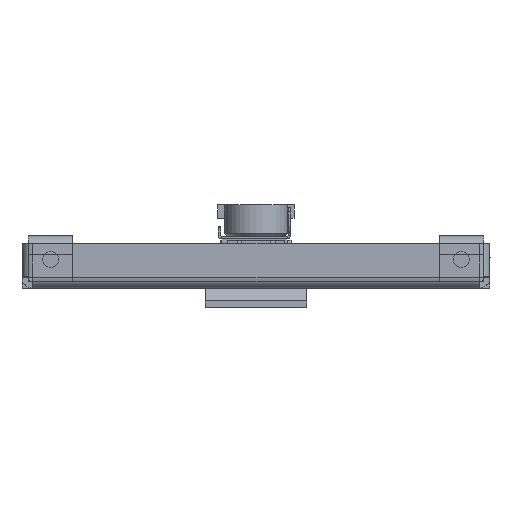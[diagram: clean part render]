
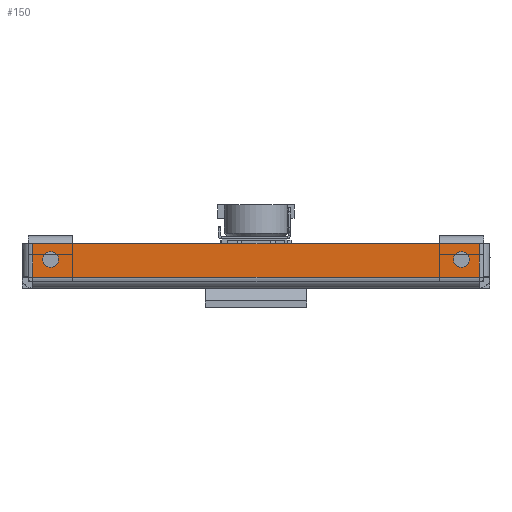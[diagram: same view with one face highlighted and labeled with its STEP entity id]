
A CAD part, left-side view. The second image highlights one B-rep face of the part: STEP entity #150.
In plain terms, the highlighted planar face has unit normal (-1, 0, 0).
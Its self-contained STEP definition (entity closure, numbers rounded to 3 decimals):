
#150=ADVANCED_FACE('',(#799,#801,#803),#805,.F.);
#799=FACE_BOUND('',#800,.T.);
#800=EDGE_LOOP('',(#3544,#3545,#3546,#3547));
#801=FACE_BOUND('',#802,.T.);
#802=EDGE_LOOP('',(#3548));
#803=FACE_BOUND('',#804,.T.);
#804=EDGE_LOOP('',(#3549));
#805=PLANE('',#806);
#806=AXIS2_PLACEMENT_3D('',#807,#808,#809);
#807=CARTESIAN_POINT('',(-493.2,0.,0.));
#808=DIRECTION('',(1.,0.,0.));
#809=DIRECTION('',(0.,0.,-1.));
#3544=ORIENTED_EDGE('',*,*,#5313,.F.);
#3545=ORIENTED_EDGE('',*,*,#5315,.F.);
#3546=ORIENTED_EDGE('',*,*,#5316,.F.);
#3547=ORIENTED_EDGE('',*,*,#5317,.F.);
#3548=ORIENTED_EDGE('',*,*,#5130,.T.);
#3549=ORIENTED_EDGE('',*,*,#5132,.F.);
#5130=EDGE_CURVE('',#6046,#6046,#6047,.T.);
#5132=EDGE_CURVE('',#6050,#6050,#6051,.T.);
#5313=EDGE_CURVE('',#6352,#6345,#6356,.T.);
#5315=EDGE_CURVE('',#6358,#6352,#6359,.T.);
#5316=EDGE_CURVE('',#6360,#6358,#6361,.T.);
#5317=EDGE_CURVE('',#6345,#6360,#6362,.T.);
#6046=VERTEX_POINT('',#7552);
#6047=CIRCLE('',#7553,2.5);
#6050=VERTEX_POINT('',#7562);
#6051=CIRCLE('',#7563,2.5);
#6345=VERTEX_POINT('',#8305);
#6352=VERTEX_POINT('',#8325);
#6356=LINE('',#8336,#8337);
#6358=VERTEX_POINT('',#8342);
#6359=LINE('',#8343,#8344);
#6360=VERTEX_POINT('',#8346);
#6361=LINE('',#8347,#8348);
#6362=LINE('',#8350,#8351);
#7552=CARTESIAN_POINT('',(-493.2,-64.5,11.5));
#7553=AXIS2_PLACEMENT_3D('',#7554,#7555,#7556);
#7554=CARTESIAN_POINT('',(-493.2,-64.5,9.));
#7555=DIRECTION('',(1.,0.,0.));
#7556=DIRECTION('',(0.,0.,1.));
#7562=CARTESIAN_POINT('',(-493.2,64.5,11.5));
#7563=AXIS2_PLACEMENT_3D('',#7564,#7565,#7566);
#7564=CARTESIAN_POINT('',(-493.2,64.5,9.));
#7565=DIRECTION('',(-1.,0.,0.));
#7566=DIRECTION('',(0.,0.,-1.));
#8305=CARTESIAN_POINT('',(-493.2,70.1,3.4));
#8325=CARTESIAN_POINT('',(-493.2,-70.1,3.4));
#8336=CARTESIAN_POINT('',(-493.2,-70.1,3.4));
#8337=VECTOR('',#8338,1.);
#8338=DIRECTION('',(0.,1.,0.));
#8342=CARTESIAN_POINT('',(-493.2,-70.1,14.));
#8343=CARTESIAN_POINT('',(-493.2,-70.1,14.));
#8344=VECTOR('',#8345,1.);
#8345=DIRECTION('',(0.,0.,-1.));
#8346=CARTESIAN_POINT('',(-493.2,70.1,14.));
#8347=CARTESIAN_POINT('',(-493.2,70.1,14.));
#8348=VECTOR('',#8349,1.);
#8349=DIRECTION('',(0.,-1.,0.));
#8350=CARTESIAN_POINT('',(-493.2,70.1,3.4));
#8351=VECTOR('',#8352,1.);
#8352=DIRECTION('',(0.,0.,1.));
